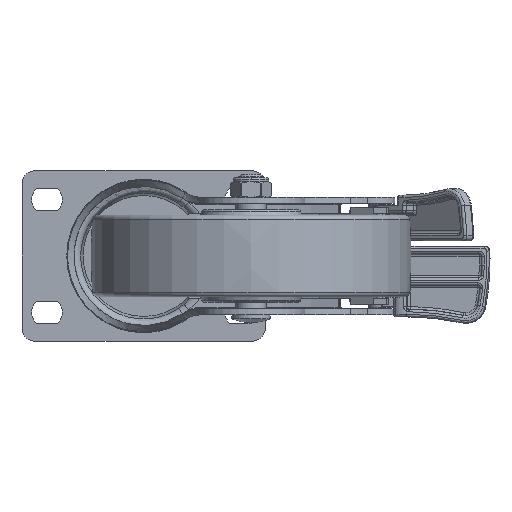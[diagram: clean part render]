
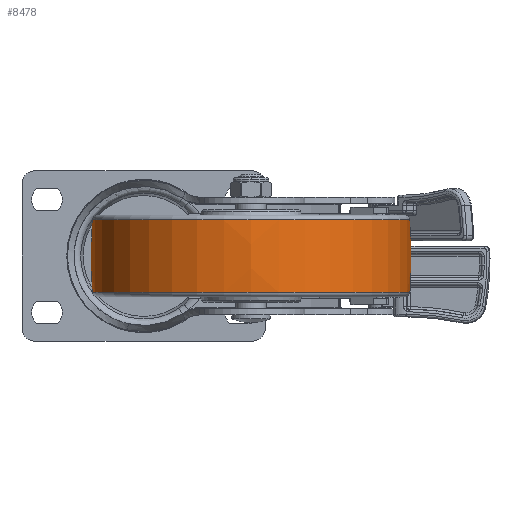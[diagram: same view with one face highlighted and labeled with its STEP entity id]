
A CAD part, front view. The second image highlights one B-rep face of the part: STEP entity #8478.
In plain terms, the highlighted free-form (B-spline) face has degree [3, 3] with [7, 4] control points.
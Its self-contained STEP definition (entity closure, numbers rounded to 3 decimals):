
#7890=CARTESIAN_POINT('',(-0.009,-107.5,
0.));
#7891=DIRECTION('',(0.,0.,1.));
#7892=DIRECTION('',(0.083,0.997,0.));
#7893=AXIS2_PLACEMENT_3D('',#7890,#7891,#7892);
#7895=CARTESIAN_POINT('',(-0.009,107.5,
0.));
#7896=DIRECTION('',(0.,0.,-1.));
#7897=DIRECTION('',(0.083,-0.997,0.));
#7898=AXIS2_PLACEMENT_3D('',#7895,#7896,#7897);
#7900=CARTESIAN_POINT('',(14.09,0.,0.));
#7901=DIRECTION('',(-1.,0.,0.));
#7902=DIRECTION('',(0.,1.,0.));
#7903=AXIS2_PLACEMENT_3D('',#7900,#7901,#7902);
#7925=CARTESIAN_POINT('',(-14.167,0.,0.));
#7926=DIRECTION('',(-1.,0.,0.));
#7927=DIRECTION('',(0.,1.,0.));
#7928=AXIS2_PLACEMENT_3D('',#7925,#7926,#7927);
#8069=CARTESIAN_POINT('',(14.09,61.915,0.));
#8071=VERTEX_POINT('',#8069);
#8072=CARTESIAN_POINT('',(-14.167,61.91,0.));
#8073=VERTEX_POINT('',#8072);
#8109=CARTESIAN_POINT('',(14.09,-61.915,
0.));
#8111=VERTEX_POINT('',#8109);
#8112=CARTESIAN_POINT('',(-14.167,-61.91,
0.));
#8113=VERTEX_POINT('',#8112);
#8440=CARTESIAN_POINT('',(-14.73,-61.74,
3.884));
#8441=CARTESIAN_POINT('',(-4.948,-62.588,
3.938));
#8442=CARTESIAN_POINT('',(4.871,-62.59,3.938));
#8443=CARTESIAN_POINT('',(14.654,-61.745,3.885));
#8444=CARTESIAN_POINT('',(-14.73,-64.13,
-34.11));
#8445=CARTESIAN_POINT('',(-4.948,-65.012,
-34.579));
#8446=CARTESIAN_POINT('',(4.871,-65.013,
-34.58));
#8447=CARTESIAN_POINT('',(14.654,-64.135,
-34.113));
#8448=CARTESIAN_POINT('',(-14.73,-38.07,
-61.862));
#8449=CARTESIAN_POINT('',(-4.948,-38.593,
-62.712));
#8450=CARTESIAN_POINT('',(4.871,-38.594,
-62.714));
#8451=CARTESIAN_POINT('',(14.654,-38.073,
-61.867));
#8452=CARTESIAN_POINT('',(-14.73,0.,
-61.862));
#8453=CARTESIAN_POINT('',(-4.948,0.,
-62.712));
#8454=CARTESIAN_POINT('',(4.871,0.,
-62.714));
#8455=CARTESIAN_POINT('',(14.654,0.,
-61.867));
#8456=CARTESIAN_POINT('',(-14.73,38.07,
-61.862));
#8457=CARTESIAN_POINT('',(-4.948,38.593,
-62.712));
#8458=CARTESIAN_POINT('',(4.871,38.594,-62.714));
#8459=CARTESIAN_POINT('',(14.654,38.073,-61.867));
#8460=CARTESIAN_POINT('',(-14.73,64.13,
-34.11));
#8461=CARTESIAN_POINT('',(-4.948,65.012,
-34.579));
#8462=CARTESIAN_POINT('',(4.871,65.013,-34.58));
#8463=CARTESIAN_POINT('',(14.654,64.135,-34.113));
#8464=CARTESIAN_POINT('',(-14.73,61.74,3.884));
#8465=CARTESIAN_POINT('',(-4.948,62.588,3.938));
#8466=CARTESIAN_POINT('',(4.871,62.59,3.938));
#8467=CARTESIAN_POINT('',(14.654,61.745,3.885));
#8468=(BOUNDED_SURFACE()B_SPLINE_SURFACE(3,3,((#8440,#8441,#8442,#8443),(#8444,
#8445,#8446,#8447),(#8448,#8449,#8450,#8451),(#8452,#8453,#8454,#8455),(#8456,
#8457,#8458,#8459),(#8460,#8461,#8462,#8463),(#8464,#8465,#8466,#8467)),
.UNSPECIFIED.,.F.,.F.,.F.)B_SPLINE_SURFACE_WITH_KNOTS((4,3,4),(4,4),(0.,1.,
2.),(0.,1.),.UNSPECIFIED.)GEOMETRIC_REPRESENTATION_ITEM()RATIONAL_B_SPLINE_SURFACE(((1.189,1.187,1.187,1.189),(
0.939,0.937,0.937,0.939),(
0.939,0.937,0.937,0.939),(
1.189,1.187,1.187,1.189),(
0.939,0.937,0.937,0.939),(
0.939,0.937,0.937,0.939),(
1.189,1.187,1.187,1.189)))REPRESENTATION_ITEM('')SURFACE());
#8470=ORIENTED_EDGE('',*,*,#8469,.T.);
#8472=ORIENTED_EDGE('',*,*,#8471,.T.);
#8474=ORIENTED_EDGE('',*,*,#8473,.F.);
#8475=ORIENTED_EDGE('',*,*,#8433,.F.);
#8476=EDGE_LOOP('',(#8470,#8472,#8474,#8475));
#8477=FACE_OUTER_BOUND('',#8476,.F.);
#7894=CIRCLE('',#7893,170.);
#7899=CIRCLE('',#7898,170.);
#7904=CIRCLE('',#7903,61.915);
#7929=CIRCLE('',#7928,61.91);
#8433=EDGE_CURVE('',#8071,#8111,#7904,.T.);
#8469=EDGE_CURVE('',#8071,#8073,#7894,.T.);
#8471=EDGE_CURVE('',#8073,#8113,#7929,.T.);
#8473=EDGE_CURVE('',#8111,#8113,#7899,.T.);
#8478=ADVANCED_FACE('',(#8477),#8468,.T.);
